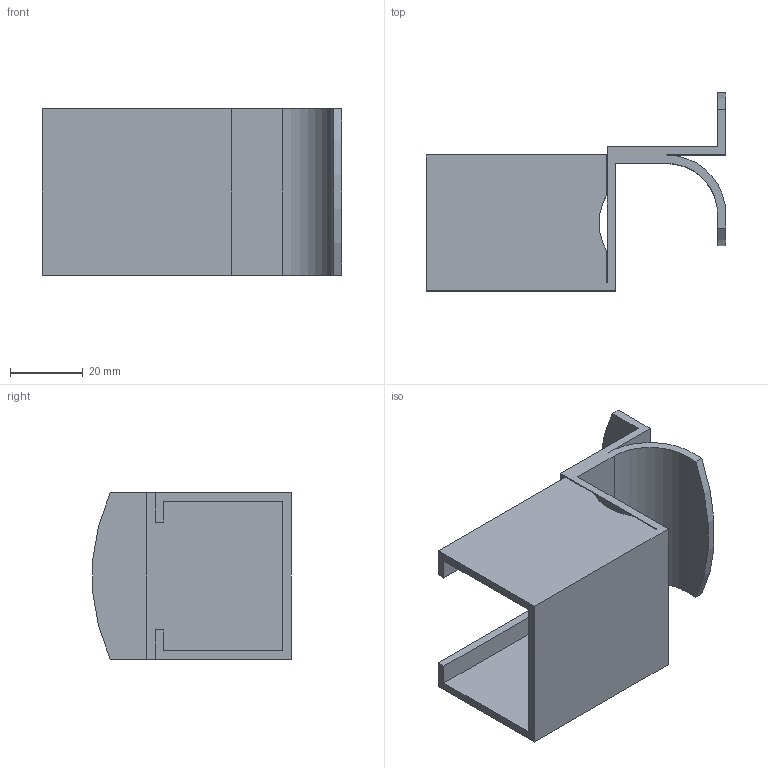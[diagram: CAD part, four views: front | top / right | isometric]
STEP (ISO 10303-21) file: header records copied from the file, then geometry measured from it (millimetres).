
FILE_DESCRIPTION (( 'STEP AP214' ), '1' );
FILE_NAME ('JB-502B.step', '2023-12-26T01:20:09', ( 'catia' ), ( 'HP Inc.' ), 'SwSTEP 2.0', 'SolidWorks 2021', '' );
FILE_SCHEMA (( 'AUTOMOTIVE_DESIGN' ));
Length unit declared in the file: millimetre
Products named in the file (1): JB-502B
Bounding box: 82.3 x 54.4 x 45.6 mm (x, y, z)
Volume: 27827.6 mm3; surface area: 24302.6 mm2
Topology: 1 solids, 1 shells, 32 faces, 90 edges, 60 vertices
Faces by surface type: plane 26, cylinder 6
Entity records: 1060 total; most frequent: CARTESIAN_POINT 183, ORIENTED_EDGE 180, DIRECTION 168, EDGE_CURVE 90, LINE 78, VECTOR 78, VERTEX_POINT 60, AXIS2_PLACEMENT_3D 45
